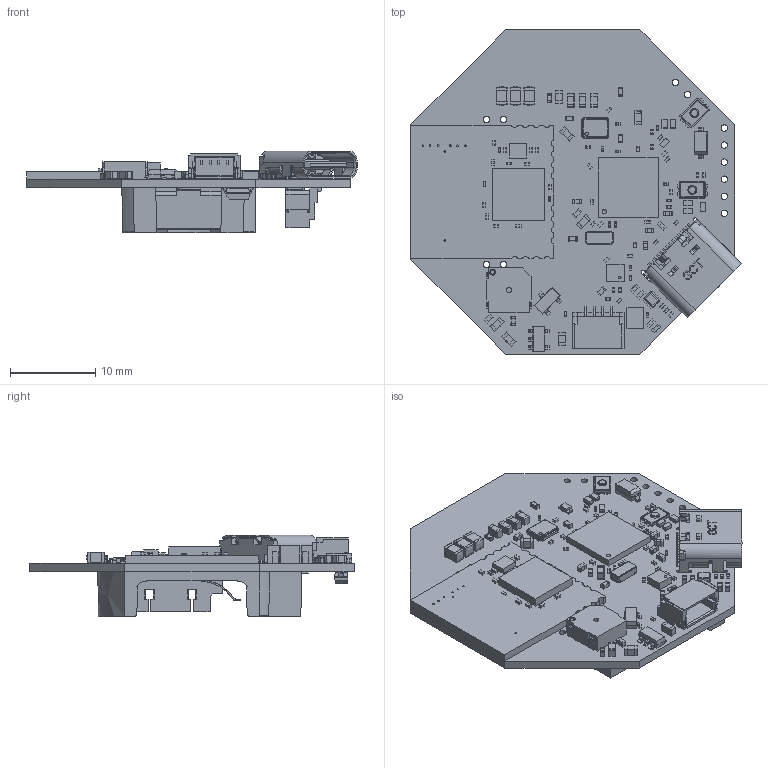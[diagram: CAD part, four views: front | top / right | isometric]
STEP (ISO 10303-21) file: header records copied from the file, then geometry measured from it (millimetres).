
FILE_DESCRIPTION(('Open CASCADE Model'),'2;1');
FILE_NAME('Open CASCADE Shape Model','2024-09-26T21:28:54',('Author'),( 'Open CASCADE'),'Open CASCADE STEP processor 7.5','Open CASCADE 7.5' ,'Unknown');
FILE_SCHEMA(('AUTOMOTIVE_DESIGN { 1 0 10303 214 1 1 1 1 }'));
Length unit declared in the file: millimetre
Products named in the file (339): PCB; Board; Open CASCADE STEP translator 7.5 2.1.1; Y2; ECS-.327-12.5-34B; Y1; User Library-3225-1; UWB; DCU040 with Board Outline white; Open CASCADE STEP translator 7.5 4.1.1; C14; 14943305968; Extruded; C1; Cap_Murata_GRM0335C1HR30BA01D_eec; terminals; body; logo; X1; 14943305808; R1; Res_Panasonic_Electronic_Components_ERJ-1GNF4872C_eec; 1; 2; 3; Panasonic Logo; Q1; 14942798192; C13; 7333707152; 7333701072; C12; C11; 7333707392; C10; C9; C8; C7; C6; C5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
Assembly tree (524 placements, depth 6):
  PCB
    Board
      Open CASCADE STEP translator 7.5 2.1.1
    Y2
      ECS-.327-12.5-34B
    Y1
      User Library-3225-1
    UWB
      DCU040 with Board Outline white
        Board
          Open CASCADE STEP translator 7.5 4.1.1
        C14
          14943305968
            Extruded
        C1
          Cap_Murata_GRM0335C1HR30BA01D_eec
            terminals
            body
            logo
        X1
          14943305808
            Extruded
        R1
          Res_Panasonic_Electronic_Components_ERJ-1GNF4872C_eec
            1
            2
            3
            Panasonic Logo
        Q1
          14942798192
            Extruded
        C13
          7333707152
            Extruded
          7333701072  x2
            Extruded
        C12
          7333707152
            Extruded
          7333701072  x2
            Extruded
        C11
          7333707152
            Extruded
          7333707392  x2
            Extruded
        C10
          7333707152
            Extruded
          7333707392  x2
            Extruded
        C9
          7333707152
            Extruded
          7333701072  x2
            Extruded
        C8
          7333707152
            Extruded
          7333707392  x2
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Bounding box: 38.75 x 38 x 9.56 mm (x, y, z)
Volume: 2445.5 mm3; surface area: 6925 mm2
Topology: 507 solids, 510 shells, 10259 faces, 26745 edges, 16838 vertices
Faces by surface type: plane 7465, cylinder 1690, bspline 558, sphere 248, revolution 222, cone 55, torus 19, extrusion 2
Full cylindrical faces by diameter (mm): 0.116 x24, 0.2 x38, 0.712 x2, 0.75 x12, 0.85 x6, 1.5 x2
Entity records: 169081 total; most frequent: CARTESIAN_POINT 32488, ORIENTED_EDGE 23690, DIRECTION 22133, EDGE_CURVE 11851, VECTOR 9597, LINE 9595, VERTEX_POINT 7869, AXIS2_PLACEMENT_3D 6194
